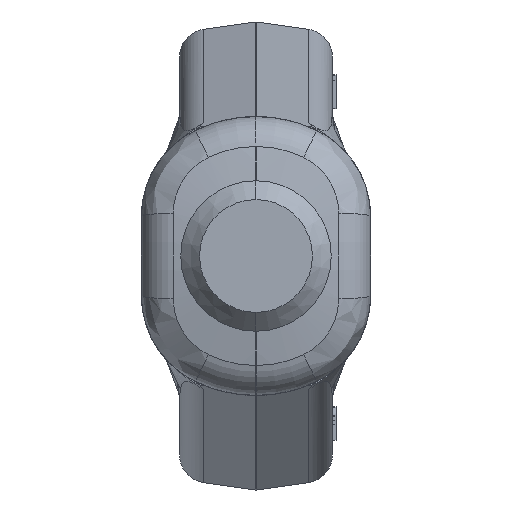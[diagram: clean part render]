
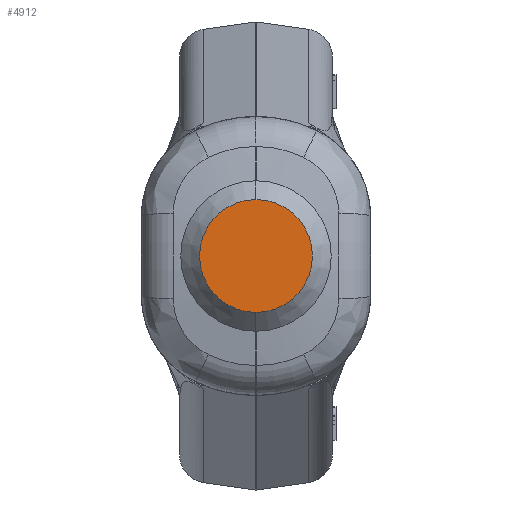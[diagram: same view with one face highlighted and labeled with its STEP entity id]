
A CAD part, left-side view. The second image highlights one B-rep face of the part: STEP entity #4912.
In plain terms, the highlighted planar face has unit normal (-1, 0, 0).
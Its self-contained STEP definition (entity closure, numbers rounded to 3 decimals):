
#4810 = EDGE_CURVE ( 'NONE', #4811, #4855, #38003, .T. ) ;
#4811 = VERTEX_POINT ( 'NONE', #37999 ) ;
#4855 = VERTEX_POINT ( 'NONE', #38044 ) ;
#4889 = EDGE_CURVE ( 'NONE', #4855, #4811, #38127, .T. ) ;
#4890 = ORIENTED_EDGE ( 'NONE', *, *, #4810, .T. ) ;
#4912 = ADVANCED_FACE ( 'NONE', ( #38147 ), #38146, .F. ) ;
#4913 = EDGE_LOOP ( 'NONE', ( #4914, #4890 ) ) ;
#4914 = ORIENTED_EDGE ( 'NONE', *, *, #4889, .T. ) ;
#37999 = CARTESIAN_POINT ( 'NONE',  ( -180., 0., 6. ) ) ;
#38000 = DIRECTION ( 'NONE',  ( 0., 0., -1. ) ) ;
#38001 = DIRECTION ( 'NONE',  ( -1., 0., 0. ) ) ;
#38002 = AXIS2_PLACEMENT_3D ( 'NONE', #38008, #38001, #38000 ) ;
#38003 = CIRCLE ( 'NONE', #38002, 6. ) ;
#38008 = CARTESIAN_POINT ( 'NONE',  ( -180., 0., 0. ) ) ;
#38044 = CARTESIAN_POINT ( 'NONE',  ( -180., 0., -6. ) ) ;
#38119 = DIRECTION ( 'NONE',  ( 0., 0., -1. ) ) ;
#38120 = DIRECTION ( 'NONE',  ( -1., 0., 0. ) ) ;
#38121 = CARTESIAN_POINT ( 'NONE',  ( -180., 0., 0. ) ) ;
#38122 = AXIS2_PLACEMENT_3D ( 'NONE', #38121, #38120, #38119 ) ;
#38127 = CIRCLE ( 'NONE', #38122, 6. ) ;
#38142 = DIRECTION ( 'NONE',  ( 0., 0., -1. ) ) ;
#38143 = DIRECTION ( 'NONE',  ( 1., 0., 0. ) ) ;
#38144 = CARTESIAN_POINT ( 'NONE',  ( -180., 0., 0. ) ) ;
#38145 = AXIS2_PLACEMENT_3D ( 'NONE', #38144, #38143, #38142 ) ;
#38146 = PLANE ( 'NONE',  #38145 ) ;
#38147 = FACE_OUTER_BOUND ( 'NONE', #4913, .T. ) ;
